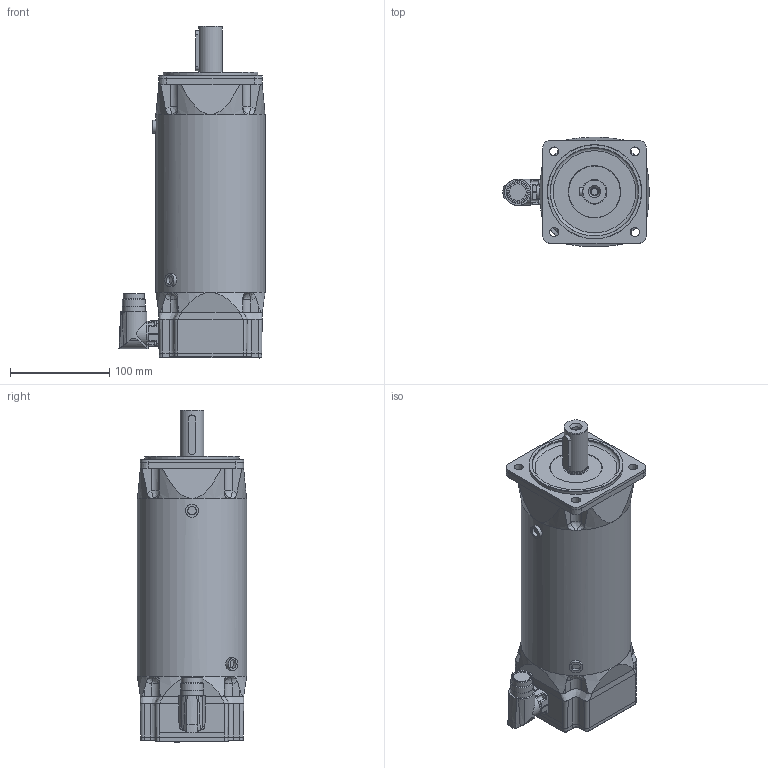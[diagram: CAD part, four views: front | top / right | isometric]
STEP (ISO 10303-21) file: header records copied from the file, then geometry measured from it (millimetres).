
FILE_DESCRIPTION(/* description */ (''),/* implementation_level */ '2;1');
FILE_NAME(/* name */ 'AM8354-xK_P11.stp',/* time_stamp */ '2024-11-06T20:18:09+01:00',/* author */ ('MartinMue'),/* organization */ (''),/* preprocessor_version */ 'ST-DEVELOPER v20',/* originating_system */ 'Autodesk Inventor 2024',/* authorisation */ '');
FILE_SCHEMA (('AUTOMOTIVE_DESIGN { 1 0 10303 214 3 1 1 }'));
Length unit declared in the file: millimetre
Products named in the file (5): 5000000380; 5000000380_1; Intercontec-B_ED_A_091_NN_00_00_1116_000.ipt_VM2_Sockel; Intercontec-B_ED_A_091_NN_00_00_1116_000.ipt_VM2_ohne_Sockel; DIN 6885-A8x7x40
Assembly tree (4 placements, depth 2):
  5000000380
    5000000380_1
    Intercontec-B_ED_A_091_NN_00_00_1116_000.ipt_VM2_Sockel
    Intercontec-B_ED_A_091_NN_00_00_1116_000.ipt_VM2_ohne_Sockel
    DIN 6885-A8x7x40
Bounding box: 147.26 x 110 x 334.51 mm (x, y, z)
Volume: 2780036.7 mm3; surface area: 142161.9 mm2
Topology: 4 solids, 4 shells, 489 faces, 1262 edges, 805 vertices
Faces by surface type: plane 252, cylinder 98, cone 73, bspline 49, torus 13, sphere 4
Full cylindrical faces by diameter (mm): 4.8 x4, 6.917 x1, 8.4 x1, 8.566 x2, 13 x2, 16.8 x1, 21.6 x1, 23 x1, 23.1 x1, 23.4 x1, 24 x1, 24.999 x1, 52 x1, 95 x1, 110 x1
Entity records: 19099 total; most frequent: CARTESIAN_POINT 6564, ORIENTED_EDGE 2508, DIRECTION 2395, EDGE_CURVE 1254, AXIS2_PLACEMENT_3D 862, VERTEX_POINT 807, LINE 671, VECTOR 671
